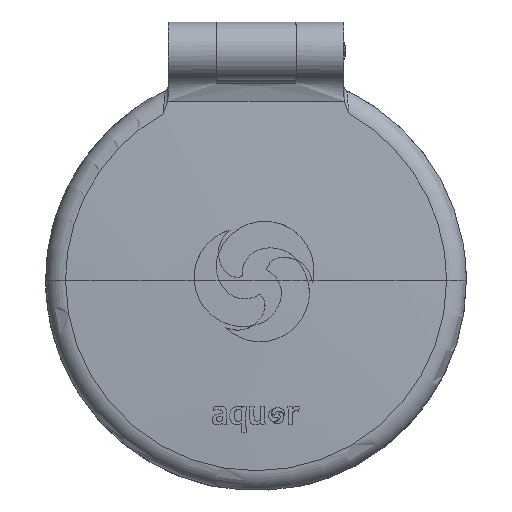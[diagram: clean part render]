
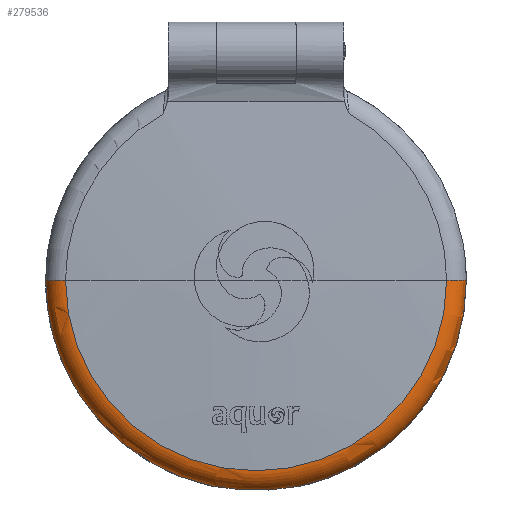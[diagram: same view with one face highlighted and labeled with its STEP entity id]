
A CAD part, top view. The second image highlights one B-rep face of the part: STEP entity #279536.
In plain terms, the highlighted toroidal (fillet/blend) face has major radius 35.5 mm and minor radius 4.002 mm.
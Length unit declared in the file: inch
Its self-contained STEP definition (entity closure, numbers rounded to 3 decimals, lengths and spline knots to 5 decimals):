
#325 = CARTESIAN_POINT ( 'NONE',  ( -0.28426, -1.52658, -0.02345 ) ) ;
#458 = CARTESIAN_POINT ( 'NONE',  ( 0.28449, -1.52661, -0.02474 ) ) ;
#5888 = AXIS2_PLACEMENT_3D ( 'NONE', #100056, #210209, #101540 ) ;
#7480 = VERTEX_POINT ( 'NONE', #36677 ) ;
#10486 = VERTEX_POINT ( 'NONE', #129848 ) ;
#12276 = EDGE_CURVE ( 'NONE', #97944, #274056, #260454, .T. ) ;
#12612 = DIRECTION ( 'NONE',  ( 0.002, 0.007, 1. ) ) ;
#22946 = CARTESIAN_POINT ( 'NONE',  ( -1.14927, -1.0517, -0.05268 ) ) ;
#25519 = CARTESIAN_POINT ( 'NONE',  ( 1.55531, -0.00033, -0.06632 ) ) ;
#25769 = CARTESIAN_POINT ( 'NONE',  ( -1.39842, -0.68634, -0.05471 ) ) ;
#29506 = EDGE_CURVE ( 'NONE', #274056, #152642, #264932, .T. ) ;
#31310 = CARTESIAN_POINT ( 'NONE',  ( 1.49498, -0.43837, -0.06306 ) ) ;
#34183 = CARTESIAN_POINT ( 'NONE',  ( 0.48553, -1.48047, -0.05335 ) ) ;
#35125 = B_SPLINE_CURVE_WITH_KNOTS ( 'NONE', 3,
 ( #152191, #458, #130201, #181135, #270434, #106667 ),
 .UNSPECIFIED., .F., .F.,
 ( 4, 2, 4 ),
 ( 0.00565, 0.00629, 0.00692 ),
 .UNSPECIFIED. ) ;
#36677 = CARTESIAN_POINT ( 'NONE',  ( -0.31322, -1.52361, -0.05123 ) ) ;
#45455 = B_SPLINE_CURVE_WITH_KNOTS ( 'NONE', 3,
 ( #175233, #85552, #66412, #266001, #325, #107597 ),
 .UNSPECIFIED., .F., .F.,
 ( 4, 2, 4 ),
 ( 0., 0.00063, 0.00126 ),
 .UNSPECIFIED. ) ;
#47707 = CARTESIAN_POINT ( 'NONE',  ( -0.40005, -1.50575, -0.05116 ) ) ;
#50558 = AXIS2_PLACEMENT_3D ( 'NONE', #80626, #256729, #146743 ) ;
#50943 = EDGE_CURVE ( 'NONE', #7480, #154145, #45455, .T. ) ;
#55226 = TOROIDAL_SURFACE ( 'NONE', #50558, 1.39764, 0.15757 ) ;
#66412 = CARTESIAN_POINT ( 'NONE',  ( -0.30584, -1.52435, -0.03612 ) ) ;
#69754 = CARTESIAN_POINT ( 'NONE',  ( -1.31141, -0.8408, -0.05381 ) ) ;
#71213 = CARTESIAN_POINT ( 'NONE',  ( -1.5475, -0.17762, -0.05799 ) ) ;
#73859 = CARTESIAN_POINT ( 'NONE',  ( 0.31341, -1.52363, -0.05266 ) ) ;
#75657 = CARTESIAN_POINT ( 'NONE',  ( 0.00017, -0.00014, -0.03495 ) ) ;
#76749 = CARTESIAN_POINT ( 'NONE',  ( 0.88194, -1.28441, -0.05565 ) ) ;
#80605 = VERTEX_POINT ( 'NONE', #189105 ) ;
#80626 = CARTESIAN_POINT ( 'NONE',  ( 0.00011, -0.00034, -0.06278 ) ) ;
#85552 = CARTESIAN_POINT ( 'NONE',  ( -0.3108, -1.52405, -0.04319 ) ) ;
#89496 = ORIENTED_EDGE ( 'NONE', *, *, #12276, .F. ) ;
#93544 = DIRECTION ( 'NONE',  ( 0., 1., -0.007 ) ) ;
#95001 = CARTESIAN_POINT ( 'NONE',  ( -1.39753, -0.00034, -0.0596 ) ) ;
#97333 = CARTESIAN_POINT ( 'NONE',  ( 1.55531, -0.08897, -0.06569 ) ) ;
#97944 = VERTEX_POINT ( 'NONE', #123026 ) ;
#100056 = CARTESIAN_POINT ( 'NONE',  ( 1.39774, -0.00033, -0.06596 ) ) ;
#100233 = ORIENTED_EDGE ( 'NONE', *, *, #262550, .F. ) ;
#100245 = CARTESIAN_POINT ( 'NONE',  ( 0.65058, -1.41573, -0.05419 ) ) ;
#101345 = AXIS2_PLACEMENT_3D ( 'NONE', #75657, #12612, #125593 ) ;
#101540 = DIRECTION ( 'NONE',  ( 0., -0.007, -1. ) ) ;
#102384 = ORIENTED_EDGE ( 'NONE', *, *, #115966, .T. ) ;
#106667 = CARTESIAN_POINT ( 'NONE',  ( 0.31341, -1.52363, -0.05266 ) ) ;
#107597 = CARTESIAN_POINT ( 'NONE',  ( -0.27599, -1.52807, -0.02346 ) ) ;
#107822 = EDGE_CURVE ( 'NONE', #80605, #152642, #216910, .T. ) ;
#112472 = CARTESIAN_POINT ( 'NONE',  ( -1.55509, -0.08898, -0.05861 ) ) ;
#113904 = CARTESIAN_POINT ( 'NONE',  ( -1.5551, -0.00035, -0.05924 ) ) ;
#115355 = CARTESIAN_POINT ( 'NONE',  ( -1.4353, -0.60538, -0.05521 ) ) ;
#115966 = EDGE_CURVE ( 'NONE', #154145, #10486, #260480, .T. ) ;
#118226 = CARTESIAN_POINT ( 'NONE',  ( -0.48534, -1.48045, -0.05114 ) ) ;
#119441 = CARTESIAN_POINT ( 'NONE',  ( 1.39864, -0.68635, -0.06108 ) ) ;
#123026 = CARTESIAN_POINT ( 'NONE',  ( -1.5551, -0.00035, -0.05924 ) ) ;
#123814 = CARTESIAN_POINT ( 'NONE',  ( 1.43553, -0.60539, -0.06174 ) ) ;
#125593 = DIRECTION ( 'NONE',  ( -1., 0., 0.002 ) ) ;
#129848 = CARTESIAN_POINT ( 'NONE',  ( 0.2763, -1.52809, -0.02471 ) ) ;
#130201 = CARTESIAN_POINT ( 'NONE',  ( 0.29275, -1.52561, -0.02747 ) ) ;
#137347 = CARTESIAN_POINT ( 'NONE',  ( -0.88173, -1.28438, -0.05164 ) ) ;
#140266 = CARTESIAN_POINT ( 'NONE',  ( -1.08737, -1.1156, -0.05237 ) ) ;
#142904 = CARTESIAN_POINT ( 'NONE',  ( 1.14949, -1.05173, -0.05792 ) ) ;
#146447 = ORIENTED_EDGE ( 'NONE', *, *, #107822, .T. ) ;
#146743 = DIRECTION ( 'NONE',  ( 1., 0., -0.002 ) ) ;
#152191 = CARTESIAN_POINT ( 'NONE',  ( 0.2763, -1.52809, -0.02471 ) ) ;
#152642 = VERTEX_POINT ( 'NONE', #237291 ) ;
#154145 = VERTEX_POINT ( 'NONE', #177728 ) ;
#155903 = B_SPLINE_CURVE_WITH_KNOTS ( 'NONE', 3,
 ( #163821, #47707, #118226, #159478, #229702, #137347, #180036, #140266, #22946, #226768, #69754, #25769, #115355, #253130, #275094, #71213, #112472, #113904 ),
 .UNSPECIFIED., .F., .F.,
 ( 4, 2, 2, 2, 2, 2, 2, 2, 4 ),
 ( 3.34447, 3.51546, 3.68645, 3.85744, 4.02843, 4.19942, 4.37041, 4.5414, 4.71239 ),
 .UNSPECIFIED. ) ;
#156519 = VERTEX_POINT ( 'NONE', #188798 ) ;
#159478 = CARTESIAN_POINT ( 'NONE',  ( -0.65037, -1.41571, -0.05123 ) ) ;
#163821 = CARTESIAN_POINT ( 'NONE',  ( -0.31322, -1.52361, -0.05123 ) ) ;
#166427 = CARTESIAN_POINT ( 'NONE',  ( 0.73032, -1.37629, -0.05465 ) ) ;
#167859 = CARTESIAN_POINT ( 'NONE',  ( 1.54772, -0.17762, -0.06504 ) ) ;
#171620 = AXIS2_PLACEMENT_3D ( 'NONE', #95001, #93544, #208055 ) ;
#175233 = CARTESIAN_POINT ( 'NONE',  ( -0.31322, -1.52361, -0.05123 ) ) ;
#177285 = ORIENTED_EDGE ( 'NONE', *, *, #29506, .F. ) ;
#177728 = CARTESIAN_POINT ( 'NONE',  ( -0.27599, -1.52807, -0.02346 ) ) ;
#180036 = CARTESIAN_POINT ( 'NONE',  ( -0.9536, -1.23194, -0.05185 ) ) ;
#181135 = CARTESIAN_POINT ( 'NONE',  ( 0.3061, -1.52437, -0.03752 ) ) ;
#188484 = CARTESIAN_POINT ( 'NONE',  ( 0.95381, -1.23197, -0.05619 ) ) ;
#188798 = CARTESIAN_POINT ( 'NONE',  ( 0.31341, -1.52363, -0.05266 ) ) ;
#189105 = CARTESIAN_POINT ( 'NONE',  ( 1.55531, -0.00033, -0.06632 ) ) ;
#191853 = B_SPLINE_CURVE_WITH_KNOTS ( 'NONE', 3,
 ( #25519, #97333, #167859, #277699, #31310, #123814, #119441, #210401, #254311, #142904, #230889, #188484, #76749, #166427, #100245, #34183, #232343, #73859 ),
 .UNSPECIFIED., .F., .F.,
 ( 4, 2, 2, 2, 2, 2, 2, 2, 4 ),
 ( 1.5708, 1.74179, 1.91279, 2.08379, 2.25478, 2.42578, 2.59678, 2.76778, 2.93877 ),
 .UNSPECIFIED. ) ;
#203199 = CARTESIAN_POINT ( 'NONE',  ( 0.00046, 0.00078, 0.09439 ) ) ;
#204651 = DIRECTION ( 'NONE',  ( -1., 0., 0.002 ) ) ;
#208055 = DIRECTION ( 'NONE',  ( 0., 0.007, 1. ) ) ;
#210209 = DIRECTION ( 'NONE',  ( 0., -1., 0.007 ) ) ;
#210401 = CARTESIAN_POINT ( 'NONE',  ( 1.31164, -0.84082, -0.05978 ) ) ;
#216458 = EDGE_CURVE ( 'NONE', #10486, #156519, #35125, .T. ) ;
#216910 = CIRCLE ( 'NONE', #5888, 0.15757 ) ;
#222661 = AXIS2_PLACEMENT_3D ( 'NONE', #203199, #271981, #204651 ) ;
#226768 = CARTESIAN_POINT ( 'NONE',  ( -1.26129, -0.9143, -0.0534 ) ) ;
#229702 = CARTESIAN_POINT ( 'NONE',  ( -0.73012, -1.37626, -0.05133 ) ) ;
#230889 = CARTESIAN_POINT ( 'NONE',  ( 1.08759, -1.11563, -0.05732 ) ) ;
#232343 = CARTESIAN_POINT ( 'NONE',  ( 0.40023, -1.50577, -0.05298 ) ) ;
#237291 = CARTESIAN_POINT ( 'NONE',  ( 1.4093, 0.00079, 0.09118 ) ) ;
#253130 = CARTESIAN_POINT ( 'NONE',  ( -1.49476, -0.43837, -0.05626 ) ) ;
#254311 = CARTESIAN_POINT ( 'NONE',  ( 1.26151, -0.91432, -0.05915 ) ) ;
#255238 = FACE_OUTER_BOUND ( 'NONE', #270111, .T. ) ;
#256729 = DIRECTION ( 'NONE',  ( 0.002, 0.007, 1. ) ) ;
#260454 = CIRCLE ( 'NONE', #171620, 0.15757 ) ;
#260480 = CIRCLE ( 'NONE', #101345, 1.55273 ) ;
#261094 = ORIENTED_EDGE ( 'NONE', *, *, #284975, .F. ) ;
#262550 = EDGE_CURVE ( 'NONE', #7480, #97944, #155903, .T. ) ;
#264932 = CIRCLE ( 'NONE', #222661, 1.40884 ) ;
#266001 = CARTESIAN_POINT ( 'NONE',  ( -0.29247, -1.52559, -0.02615 ) ) ;
#268358 = ORIENTED_EDGE ( 'NONE', *, *, #216458, .T. ) ;
#270111 = EDGE_LOOP ( 'NONE', ( #89496, #100233, #274954, #102384, #268358, #261094, #146447, #177285 ) ) ;
#270434 = CARTESIAN_POINT ( 'NONE',  ( 0.31104, -1.52406, -0.04468 ) ) ;
#271981 = DIRECTION ( 'NONE',  ( 0.002, 0.007, 1. ) ) ;
#274056 = VERTEX_POINT ( 'NONE', #289284 ) ;
#274954 = ORIENTED_EDGE ( 'NONE', *, *, #50943, .T. ) ;
#275094 = CARTESIAN_POINT ( 'NONE',  ( -1.51733, -0.35232, -0.05682 ) ) ;
#277699 = CARTESIAN_POINT ( 'NONE',  ( 1.51755, -0.35232, -0.06373 ) ) ;
#279536 = ADVANCED_FACE ( 'NONE', ( #255238 ), #55226, .T. ) ;
#284975 = EDGE_CURVE ( 'NONE', #80605, #156519, #191853, .T. ) ;
#289284 = CARTESIAN_POINT ( 'NONE',  ( -1.40837, 0.00077, 0.0976 ) ) ;
